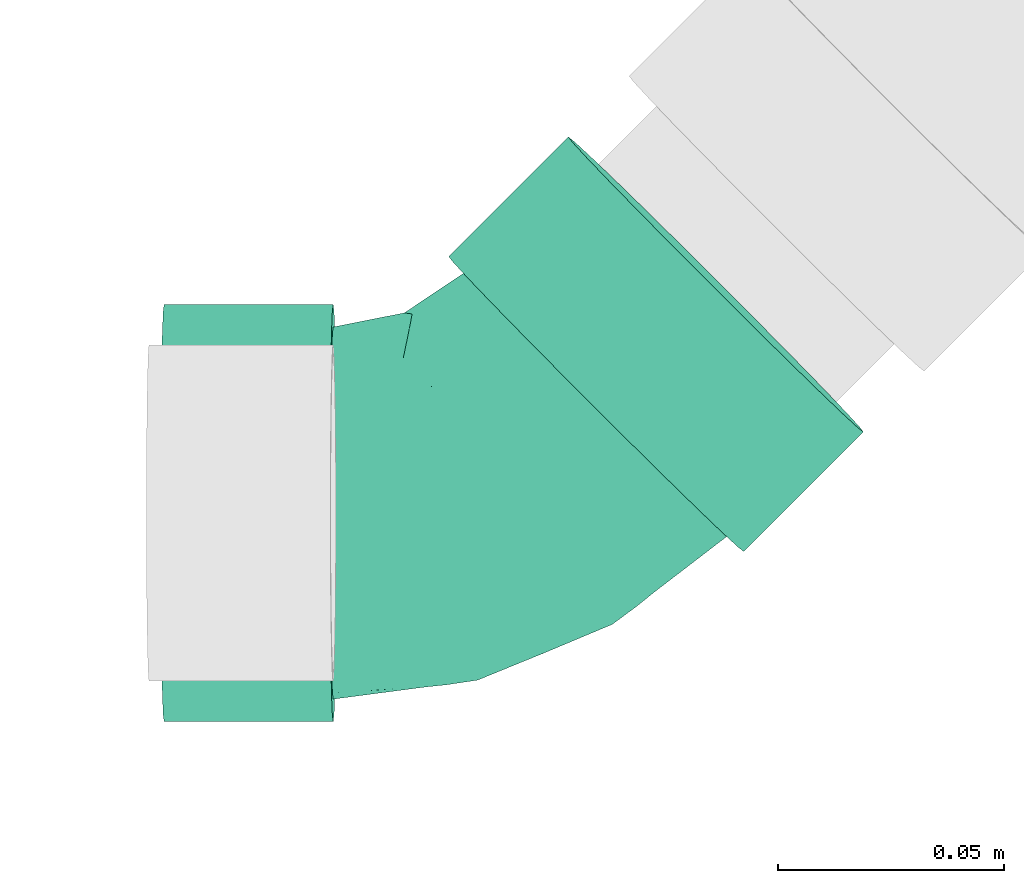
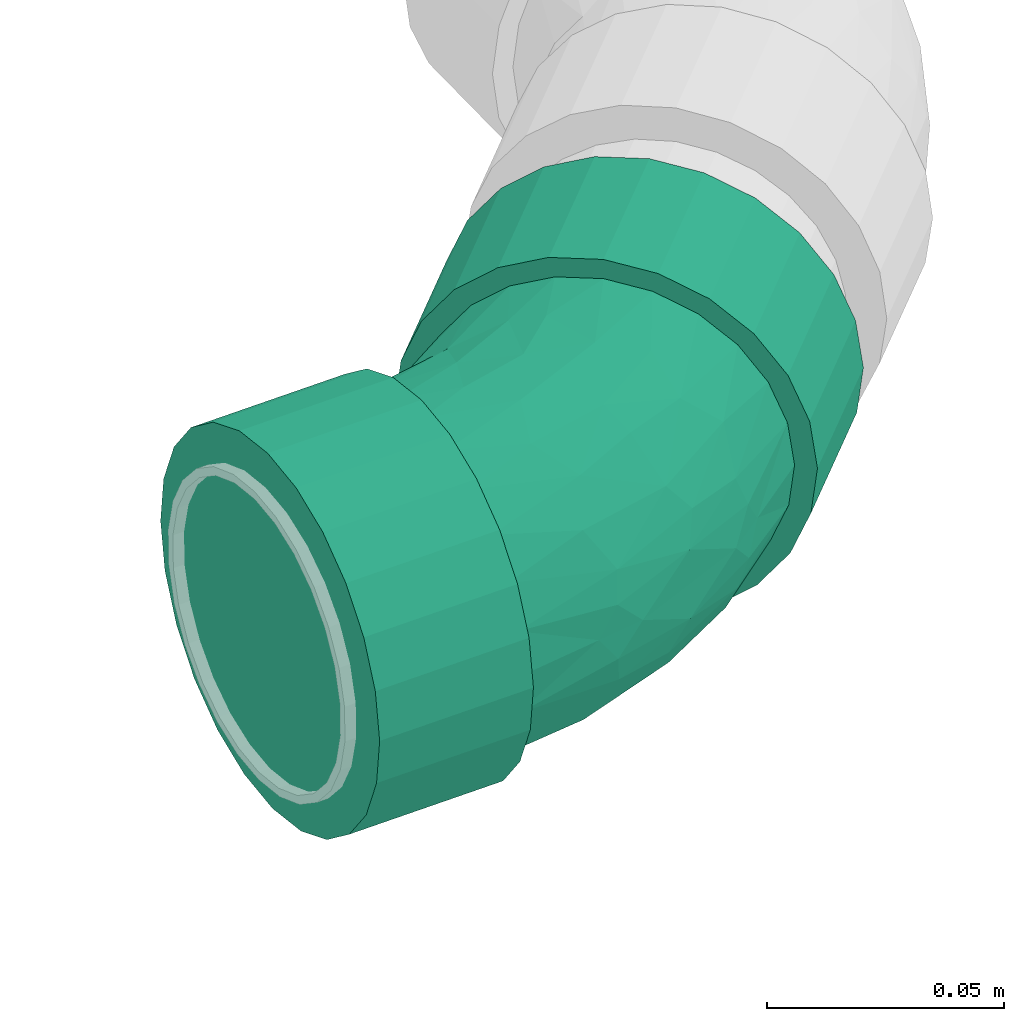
# One storey, part 13 of 18: 1 flow fitting.
"""IFC2X3 building model written with IfcOpenShell, lengths in millimetres."""

from ifc_helpers import new_model, entity, si_unit, converted_unit, derived_unit, direction, frame, origin_with_axes, place, context, subcontext, project, spatial, open_shell, surface_model, source, transform, mapped, type_object, element, save


model = new_model("IFC2X3")

# Units and contexts
model_context = context("Model", 3, precision=0.01, world=frame((0.0, 4.29681676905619e-09, 0.0)), true_north=direction((4.01073788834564e-13, 1.0)))
plan_context = context("Plan", 3, precision=0.01, world=frame((0.0, 4.29681676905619e-09, 0.0)), true_north=direction((4.01073788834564e-13, 1.0)))
body_context = subcontext(model_context, "Body", "Model", "MODEL_VIEW")
ifc_project = project(units=[converted_unit("PLANEANGLEUNIT", "DEGREE", entity("IfcPositiveLengthMeasure", 0.0174532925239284), si_unit("PLANEANGLEUNIT", "RADIAN"), dimensions=[0, 0, 0, 0, 0, 0, 0]), si_unit("AREAUNIT", "SQUARE_METRE"), si_unit("LENGTHUNIT", "METRE", prefix="MILLI"), si_unit("MASSUNIT", "GRAM", prefix="KILO"), si_unit("POWERUNIT", "WATT"), si_unit("PRESSUREUNIT", "PASCAL", prefix="KILO"), si_unit("FORCEUNIT", "NEWTON", prefix="KILO"), si_unit("ELECTRICVOLTAGEUNIT", "VOLT"), si_unit("ELECTRICCURRENTUNIT", "AMPERE"), si_unit("THERMODYNAMICTEMPERATUREUNIT", "DEGREE_CELSIUS"), si_unit("TIMEUNIT", "SECOND"), si_unit("VOLUMEUNIT", "CUBIC_METRE"), derived_unit("LINEARVELOCITYUNIT", [(si_unit("LENGTHUNIT", "METRE"), 1), (si_unit("TIMEUNIT", "SECOND"), -1)]), derived_unit("VOLUMETRICFLOWRATEUNIT", [(si_unit("VOLUMEUNIT", "CUBIC_METRE"), 1), (si_unit("TIMEUNIT", "SECOND"), -1)]), derived_unit("THERMALTRANSMITTANCEUNIT", [(si_unit("POWERUNIT", "WATT"), 1), (si_unit("THERMODYNAMICTEMPERATUREUNIT", "KELVIN"), -1), (si_unit("AREAUNIT", "SQUARE_METRE"), -1)]), derived_unit("SOUNDPRESSUREUNIT", [(si_unit("PRESSUREUNIT", "PASCAL"), 1)])], contexts=[model_context, plan_context])

# Site, building, storey
site_placement = place(None, frame((0.0, -4.29681676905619e-09, 0.0), z_axis=(0.0, 0.0, 1.0), x_axis=(1.0, 0.0, 0.0)))
site = spatial("IfcSite", under=ifc_project, at=site_placement, Name="ENGM", CompositionType="ELEMENT")
building_placement = place(site_placement, frame((0.0, 4.29681676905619e-09, 0.0), z_axis=(0.0, 0.0, 1.0), x_axis=(1.0, 0.0, 0.0)))
building = spatial("IfcBuilding", under=site, at=building_placement, Name="TI", CompositionType="ELEMENT")
storey_placement = place(building_placement, frame((0.0, 0.0, 204000.0), z_axis=(0.0, 0.0, 1.0), x_axis=(1.0, 0.0, 0.0)))
storey = spatial("IfcBuildingStorey", under=building, at=storey_placement, Name="Nivå D", CompositionType="ELEMENT", Elevation=204000.0)

# Flow fitting
pipe_fitting_type = type_object("IfcPipeFittingType", Name="magi_sewer_bend_001", PredefinedType="BEND")
shared_shape = source(origin_with_axes(), body_context, "Body", "SurfaceModel", [
    surface_model("IfcShellBasedSurfaceModel", [(-71.66706, -44.67407, -11.97038), (-71.66706, -11.97038, -44.67407), (-71.66706, -23.125, -40.05367), (-71.66706, -32.70369, -32.70369), (-71.66706, 0.0, -46.25), (-71.66706, -40.05367, -23.125), (-71.66706, -46.25, 0.0), (-71.66706, 11.97038, -44.67407), (-71.66706, 32.70369, -32.70369), (-71.66706, 23.125, -40.05367), (-71.66706, 44.67407, -11.97038), (-71.66706, 40.05367, -23.125), (-71.66706, -32.70369, 32.70369), (-71.66706, -44.67407, 11.97038), (-71.66706, -40.05367, 23.125), (-71.66706, 40.05367, 23.125), (-71.66706, -23.125, 40.05367), (-71.66706, -11.97038, 44.67407), (-71.66706, 0.0, 46.25), (-71.66706, 11.97038, 44.67407), (-71.66706, 44.67407, 11.97038), (-71.66706, 46.25, 0.0), (-71.66706, 23.125, 40.05367), (-71.66706, 32.70369, 32.70369), (-34.16706, 0.0, 46.25), (-34.16706, -11.97038, 44.67407), (-34.16706, -23.125, 40.05367), (-34.16706, -32.70369, 32.70369), (-34.16706, -40.05367, 23.125), (-34.16706, -44.67407, 11.97038), (-34.16706, 40.05367, 23.125), (-34.16706, -44.67407, -11.97038), (-34.16706, 23.125, 40.05367), (-34.16706, 32.70369, 32.70369), (-34.16706, 11.97038, 44.67407), (-34.16706, 44.67407, 11.97038), (-34.16706, 44.67407, -11.97038), (-34.16706, 46.25, 0.0), (-34.16706, -32.70369, -32.70369), (-34.16706, -40.05367, -23.125), (-34.16706, -23.125, -40.05367), (-34.16706, -11.97038, -44.67407), (-34.16706, 11.97038, -44.67407), (-34.16706, 32.70369, -32.70369), (-34.16706, 40.05367, -23.125), (-34.16706, 23.125, -40.05367), (-34.16706, 0.0, -46.25), (-34.16706, -46.25, 0.0), (59.14546, 42.20511, 44.67407), (67.03205, 34.3167, 40.05367), (73.80443, 27.54276, 32.70369), (56.86246, -8.55048, 0.0), (55.74824, -7.436, 11.97038), (52.4815, -4.16851, 23.125), (47.28487, 1.02931, 32.70369), (40.5125, 7.80325, 40.05367), (32.6259, 15.69166, 44.67407), (32.6259, 15.69166, -44.67407), (15.69917, 32.62229, -44.67407), (24.16254, 24.15697, -46.25), (40.5125, 7.80325, -40.05367), (15.69917, 32.62229, 44.67407), (1.0402, 47.28464, -32.70369), (7.81258, 40.5107, -40.05367), (-4.15643, 52.48246, -23.125), (-8.53739, 56.86443, 0.0), (-7.42316, 55.74995, -11.97038), (34.33213, 67.02415, -40.05367), (22.36313, 78.99591, -23.125), (27.55976, 73.79809, -32.70369), (19.0964, 82.2634, -11.97038), (17.98217, 83.37788, 0.0), (-7.42316, 55.74995, 11.97038), (19.0964, 82.2634, 11.97038), (34.33213, 67.02415, 40.05367), (7.81258, 40.5107, 40.05367), (27.55976, 73.79809, 32.70369), (1.0402, 47.28464, 32.70369), (-4.15643, 52.48246, 23.125), (22.36313, 78.99591, 23.125), (24.16254, 24.15697, 46.25), (79.00106, 22.34494, 23.125), (82.2678, 19.07745, 11.97038), (50.68209, 50.67043, 46.25), (83.38202, 17.96297, 0.0), (47.28487, 1.02931, -32.70369), (79.00106, 22.34494, -23.125), (52.4815, -4.16851, -23.125), (67.03205, 34.3167, -40.05367), (73.80443, 27.54276, -32.70369), (59.14546, 42.20511, -44.67407), (82.2678, 19.07745, -11.97038), (55.74824, -7.436, -11.97038), (50.68209, 50.67043, -46.25), (-34.16706, 10.67629, -39.84444), (-34.16706, 0.0, -41.25), (-34.16706, 35.72355, -20.625), (-34.16706, 20.625, -35.72355), (-34.16706, -10.67629, -39.84444), (-34.16706, 29.16816, -29.16816), (-34.16706, 39.84444, -10.67629), (-34.16706, -29.16816, -29.16816), (-34.16706, -35.72355, -20.625), (-34.16706, -20.625, -35.72355), (-34.16706, -39.84444, -10.67629), (-34.16706, -41.25, 0.0), (-34.16706, -39.84444, 10.67629), (-34.16706, 41.25, 0.0), (-34.16706, 35.72355, 20.625), (-34.16706, 39.84444, 10.67629), (-34.16706, 10.67629, 39.84444), (-34.16706, 20.625, 35.72355), (-34.16706, 29.16816, 29.16816), (-34.16706, -35.72355, 20.625), (-34.16706, -29.16816, 29.16816), (-34.16706, -10.67629, 39.84444), (-34.16706, -20.625, 35.72355), (-34.16706, 0.0, 41.25), (16.61413, 31.70712, -39.84444), (52.33357, -4.02054, -10.67629), (24.16254, 24.15697, -41.25), (38.74494, 9.57122, -35.72355), (31.71094, 16.60683, -39.84444), (52.33357, -4.02054, 10.67629), (53.32733, -5.01454, 0.0), (3.53991, 44.78435, 29.16816), (9.58014, 38.74273, 35.72355), (16.61413, 31.70712, 39.84444), (44.78516, 3.5296, 29.16816), (49.41999, -1.1063, 20.625), (31.71094, 16.60683, 39.84444), (38.74494, 9.57122, 35.72355), (10.50531, -25.3662, 22.98801), (-9.12258, -23.31381, 31.83032), (-13.31501, -31.5484, 24.15362), (31.72174, -12.89661, 24.15362), (-16.34242, -15.1263, 37.70052), (4.23545, -10.22694, 37.18093), (1.22635, 24.79685, 38.50086), (7.45593, 19.52294, 40.64982), (-12.3073, -3.97177, 40.70356), (-3.92229, 9.47079, 41.105), (-20.66516, 5.7159, 40.99964), (-11.71485, 28.28675, 33.67645), (-18.18583, 34.59425, 26.03138), (22.25184, 0.85736, 37.70052), (-15.84489, 17.16523, 38.56285), (-13.77678, -38.56597, 0.0), (-8.80118, -38.00326, 7.04424), (15.91576, -27.00124, 16.25786), (-7.39337, -35.68797, 14.32543), (12.80601, -30.92148, 8.96692), (-16.99003, 41.02424, 16.94694), (33.09337, -20.6528, 7.04424), (37.00989, -17.53286, 0.0), (-16.52081, 44.19877, 8.66693), (30.4608, -20.01081, 14.32543), (24.16254, 24.15697, 41.25), (11.51172, 5.89279, 40.70356), (22.93484, -10.03736, 31.83032), (-1.09492, 49.42024, 20.625), (-4.00849, 52.33449, 10.67629), (-18.38356, 44.38906, 0.0), (-5.00226, 53.32849, 0.0), (6.92293, -16.71615, 32.89588), (27.69972, -24.67539, 0.0), (12.77847, -30.85497, 0.0), (-12.3073, -3.97177, -40.70356), (11.51172, 5.89279, -40.70356), (-18.39926, 16.66898, -38.50086), (-19.07596, 8.53486, -40.64982), (-11.59821, 37.32248, -26.03138), (44.78516, 3.5296, -29.16816), (22.93484, -10.03736, -31.83032), (-16.99003, 41.02424, -16.94694), (49.41999, -1.1063, -20.625), (30.4608, -20.01081, -14.32542), (-19.56634, 42.93748, -8.66693), (9.58014, 38.74273, -35.72355), (-0.93093, 23.34179, -38.56285), (-8.80119, -38.00326, -7.04424), (-7.39337, -35.68797, -14.32542), (3.53991, 44.78435, -29.16816), (-11.71485, 28.28675, -33.67645), (-13.31501, -31.5484, -24.15362), (-9.12258, -23.31381, -31.83032), (6.92293, -16.71615, -32.89587), (10.50531, -25.3662, -22.98801), (-16.34242, -15.1263, -37.70052), (22.25184, 0.85736, -37.70052), (-4.00849, 52.33449, -10.67629), (-1.09492, 49.42024, -20.625), (4.23545, -10.22694, -37.18093), (33.09337, -20.6528, -7.04424), (10.57287, 18.65301, -40.99964), (7.83513, -30.34781, -16.25786), (12.80601, -30.92148, -8.96692), (31.72174, -12.89661, -24.15362), (-3.92229, 9.47079, -41.105), (42.21873, 59.13573, 44.67407), (42.21873, 59.13573, -44.67407), (-2.14278, -37.03456, 0.0)], [open_shell([[[0, 1, 2]], [[0, 2, 3]], [[1, 0, 4]], [[0, 3, 5]], [[4, 0, 6]], [[7, 8, 9]], [[8, 7, 4]], [[8, 10, 11]], [[10, 8, 4]], [[4, 6, 10]], [[6, 12, 10]], [[13, 14, 12]], [[10, 12, 15]], [[16, 17, 18]], [[16, 18, 12]], [[19, 12, 18]], [[10, 20, 21]], [[15, 20, 10]], [[15, 22, 23]], [[22, 15, 19]], [[12, 19, 15]], [[6, 13, 12]], [[24, 25, 26]], [[24, 26, 27]], [[27, 28, 29]], [[24, 27, 30]], [[27, 31, 30]], [[32, 30, 33]], [[30, 32, 34]], [[35, 36, 37]], [[30, 34, 24]], [[35, 30, 36]], [[27, 29, 31]], [[36, 30, 31]], [[38, 31, 39]], [[40, 41, 31]], [[40, 31, 38]], [[42, 31, 41]], [[36, 43, 44]], [[36, 31, 43]], [[43, 42, 45]], [[31, 42, 43]], [[41, 46, 42]], [[31, 29, 47]], [[36, 10, 37]], [[44, 11, 36]], [[9, 43, 45]], [[44, 43, 8]], [[7, 45, 42]], [[36, 11, 10]], [[10, 21, 37]], [[7, 9, 45]], [[8, 43, 9]], [[8, 11, 44]], [[4, 7, 42]], [[42, 46, 4]], [[46, 41, 1]], [[5, 39, 31]], [[39, 3, 38]], [[0, 31, 47]], [[1, 40, 2]], [[40, 1, 41]], [[40, 38, 2]], [[38, 3, 2]], [[39, 5, 3]], [[0, 5, 31]], [[47, 6, 0]], [[46, 1, 4]], [[29, 13, 47]], [[28, 14, 29]], [[16, 27, 26]], [[28, 27, 12]], [[17, 26, 25]], [[29, 14, 13]], [[13, 6, 47]], [[17, 16, 26]], [[12, 27, 16]], [[12, 14, 28]], [[18, 17, 25]], [[25, 24, 18]], [[33, 22, 32]], [[35, 15, 30]], [[33, 30, 23]], [[20, 35, 37]], [[32, 19, 34]], [[32, 22, 19]], [[19, 18, 34]], [[33, 23, 22]], [[30, 15, 23]], [[20, 15, 35]], [[37, 21, 20]], [[34, 18, 24]], [[48, 49, 50]], [[51, 52, 53]], [[54, 55, 56]], [[57, 58, 59]], [[58, 60, 61]], [[58, 62, 63]], [[64, 65, 66]], [[65, 64, 62]], [[63, 67, 58]], [[68, 62, 64]], [[63, 62, 69]], [[70, 64, 66]], [[70, 68, 64]], [[69, 62, 68]], [[69, 67, 63]], [[71, 70, 66]], [[66, 65, 71]], [[65, 72, 73]], [[74, 75, 61]], [[75, 76, 77]], [[73, 78, 79]], [[78, 73, 72]], [[78, 77, 79]], [[77, 76, 79]], [[75, 74, 76]], [[65, 73, 71]], [[56, 48, 80]], [[55, 49, 56]], [[81, 54, 53]], [[55, 54, 50]], [[82, 53, 52]], [[56, 49, 48]], [[48, 83, 80]], [[82, 81, 53]], [[50, 54, 81]], [[50, 49, 55]], [[84, 82, 52]], [[52, 51, 84]], [[85, 86, 87]], [[57, 88, 60]], [[85, 60, 89]], [[90, 57, 59]], [[87, 91, 92]], [[87, 86, 91]], [[91, 84, 92]], [[85, 89, 86]], [[60, 88, 89]], [[90, 88, 57]], [[59, 93, 90]], [[92, 84, 51]], [[94, 95, 96]], [[97, 94, 96]], [[98, 96, 95]], [[99, 97, 96]], [[100, 96, 98]], [[101, 102, 103]], [[98, 103, 102]], [[102, 104, 98]], [[104, 100, 98]], [[105, 106, 104]], [[107, 100, 104]], [[108, 109, 107]], [[106, 108, 104]], [[110, 111, 112]], [[106, 112, 108]], [[112, 106, 110]], [[113, 114, 106]], [[115, 106, 114]], [[116, 115, 114]], [[115, 110, 106]], [[115, 117, 110]], [[107, 104, 108]], [[118, 119, 120]], [[121, 122, 120]], [[119, 123, 124]], [[125, 126, 127]], [[123, 128, 129]], [[128, 130, 131]], [[132, 133, 134]], [[116, 114, 133]], [[129, 128, 135]], [[136, 133, 137]], [[134, 133, 114]], [[127, 138, 139]], [[115, 116, 136]], [[140, 141, 142]], [[117, 115, 140]], [[112, 143, 144]], [[131, 130, 145]], [[142, 110, 117]], [[111, 146, 143]], [[106, 147, 148]], [[126, 125, 143]], [[149, 150, 151]], [[143, 112, 111]], [[114, 113, 134]], [[108, 144, 152]], [[109, 108, 152]], [[123, 153, 154]], [[155, 107, 109]], [[156, 149, 151]], [[150, 148, 151]], [[111, 110, 146]], [[157, 139, 158]], [[128, 131, 159]], [[160, 161, 152]], [[158, 130, 157]], [[132, 134, 150]], [[128, 159, 135]], [[141, 139, 138]], [[159, 131, 145]], [[113, 150, 134]], [[153, 123, 156]], [[132, 135, 159]], [[142, 146, 110]], [[132, 149, 135]], [[109, 152, 155]], [[113, 106, 150]], [[162, 155, 163]], [[133, 164, 137]], [[161, 155, 152]], [[137, 158, 140]], [[160, 152, 144]], [[137, 145, 158]], [[160, 144, 125]], [[141, 140, 158]], [[127, 126, 138]], [[138, 143, 146]], [[136, 140, 115]], [[108, 112, 144]], [[156, 123, 129]], [[156, 129, 135]], [[164, 132, 159]], [[125, 144, 143]], [[143, 138, 126]], [[141, 138, 146]], [[133, 136, 116]], [[140, 136, 137]], [[158, 145, 130]], [[159, 145, 137]], [[106, 105, 147]], [[106, 148, 150]], [[153, 151, 165]], [[154, 153, 165]], [[154, 124, 123]], [[151, 153, 156]], [[158, 139, 141]], [[157, 127, 139]], [[140, 142, 117]], [[146, 142, 141]], [[132, 164, 133]], [[159, 137, 164]], [[163, 155, 161]], [[155, 162, 107]], [[135, 149, 156]], [[150, 149, 132]], [[165, 151, 166]], [[98, 95, 167]], [[120, 122, 168]], [[169, 170, 94]], [[96, 171, 99]], [[121, 172, 173]], [[174, 171, 96]], [[175, 119, 176]], [[100, 177, 174]], [[178, 118, 179]], [[104, 180, 147]], [[97, 169, 94]], [[180, 104, 181]], [[182, 183, 171]], [[181, 102, 184]], [[184, 101, 185]], [[101, 103, 185]], [[186, 187, 185]], [[104, 102, 181]], [[101, 184, 102]], [[188, 103, 98]], [[189, 168, 122]], [[190, 191, 174]], [[192, 188, 167]], [[107, 162, 177]], [[187, 184, 185]], [[163, 190, 177]], [[192, 167, 168]], [[182, 178, 183]], [[174, 96, 100]], [[191, 171, 174]], [[188, 185, 103]], [[179, 183, 178]], [[170, 167, 95]], [[183, 179, 169]], [[99, 183, 97]], [[119, 154, 193]], [[194, 118, 120]], [[189, 122, 121]], [[195, 176, 196]], [[172, 197, 173]], [[192, 189, 173]], [[172, 175, 197]], [[198, 194, 168]], [[197, 187, 173]], [[198, 168, 167]], [[193, 154, 165]], [[194, 179, 118]], [[198, 170, 169]], [[180, 181, 196]], [[187, 195, 184]], [[173, 186, 192]], [[175, 176, 197]], [[190, 174, 177]], [[187, 197, 176]], [[191, 182, 171]], [[99, 171, 183]], [[183, 169, 97]], [[198, 169, 179]], [[167, 188, 98]], [[185, 188, 192]], [[173, 189, 121]], [[168, 189, 192]], [[147, 105, 104]], [[195, 196, 181]], [[193, 196, 176]], [[196, 165, 166]], [[119, 124, 154]], [[196, 193, 165]], [[119, 193, 176]], [[167, 170, 198]], [[95, 94, 170]], [[168, 194, 120]], [[179, 194, 198]], [[187, 186, 173]], [[185, 192, 186]], [[107, 177, 100]], [[177, 162, 163]], [[184, 195, 181]], [[176, 195, 187]], [[54, 61, 60]], [[92, 85, 87]], [[85, 92, 60]], [[57, 60, 58]], [[54, 56, 61]], [[77, 78, 72]], [[58, 61, 62]], [[61, 56, 80]], [[121, 175, 172]], [[79, 71, 73]], [[79, 199, 71]], [[58, 200, 59]], [[58, 67, 200]], [[199, 61, 80]], [[199, 74, 61]], [[77, 61, 75]], [[182, 118, 178]], [[182, 191, 190]], [[182, 190, 118]], [[199, 79, 76]], [[199, 76, 74]], [[83, 71, 199]], [[71, 68, 70]], [[68, 71, 69]], [[69, 200, 67]], [[200, 69, 71]], [[71, 83, 200]], [[83, 50, 200]], [[50, 88, 200]], [[82, 84, 50]], [[82, 50, 81]], [[88, 50, 84]], [[200, 90, 93]], [[88, 90, 200]], [[89, 91, 86]], [[91, 89, 88]], [[84, 91, 88]], [[50, 83, 48]], [[51, 53, 54]], [[51, 54, 60]], [[60, 92, 51]], [[77, 72, 61]], [[62, 61, 72]], [[72, 65, 62]], [[200, 93, 59]], [[80, 83, 199]], [[119, 118, 190]], [[120, 175, 121]], [[119, 175, 120]], [[119, 190, 160]], [[161, 160, 190]], [[123, 119, 160]], [[125, 127, 160]], [[123, 160, 127]], [[128, 123, 130]], [[123, 127, 130]], [[127, 157, 130]], [[161, 190, 163]], [[147, 201, 148]], [[151, 201, 166]], [[201, 151, 148]], [[201, 180, 196]], [[147, 180, 201]], [[201, 196, 166]]])]),
])
flow_fitting_placement = place(storey_placement, frame((590862.39958, 576364.95908, 5964.75688), z_axis=(-0.0167690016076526, -0.00667700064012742, 0.999837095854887), x_axis=(0.999859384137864, -2.46326691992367e-09, 0.0167693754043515)))
element("IfcFlowFitting", 1, at=flow_fitting_placement, inside=storey, type_object=pipe_fitting_type, Name="magi_sewer_bend_001", context=body_context, shape_type="MappedRepresentation", body=[
    mapped(shared_shape, transform((0.0, 0.0, 0.0), scale=1.0)),
])

save(model, "model.ifc")
